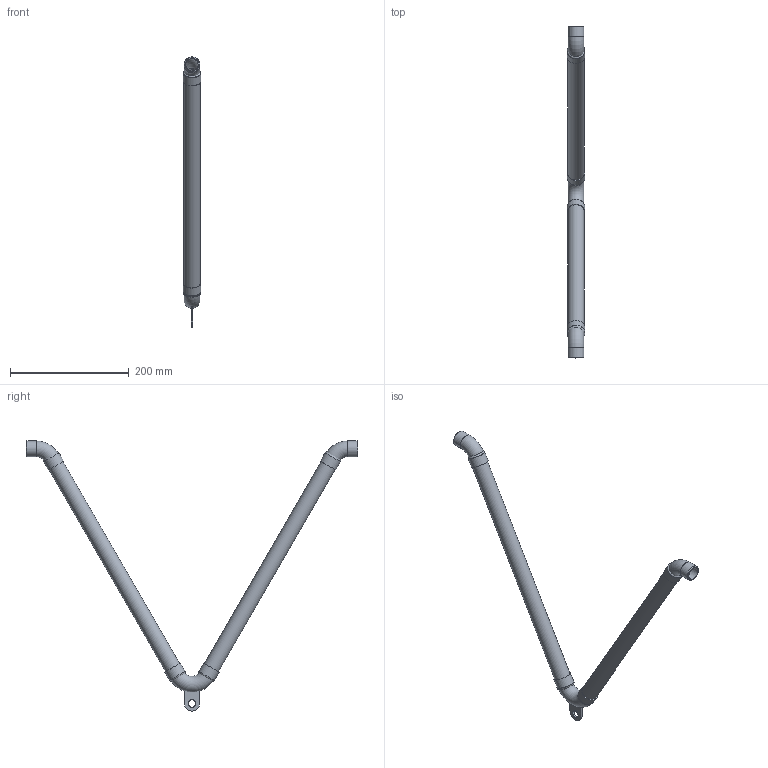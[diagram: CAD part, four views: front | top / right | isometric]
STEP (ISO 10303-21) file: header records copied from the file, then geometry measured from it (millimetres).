
FILE_DESCRIPTION(/* description */ (''),/* implementation_level */ '2;1');
FILE_NAME(/* name */ 'C:\001_Work\Designs\CSAVWN\CSAVWN-0.75x22.stp',/* time_stamp */ '2016-06-02T19:03:58-04:00',/* author */ ('rramoutar'),/* organization */ (''),/* preprocessor_version */ 'ST-DEVELOPER v15.6',/* originating_system */ 'Autodesk Inventor 2015',/* authorisation */ '');
FILE_SCHEMA (('CONFIG_CONTROL_DESIGN'));
Length unit declared in the file: inch
Products named in the file (1): CSAVWN-0.75x22
Bounding box: 29.91 x 558.8 x 454.66 mm (x, y, z)
Volume: 66755.9 mm3; surface area: 186341.1 mm2
Topology: 12 solids, 12 shells, 61 faces, 109 edges, 72 vertices
Faces by surface type: plane 27, cylinder 22, torus 10, cone 2
Full cylindrical faces by diameter (mm): 12.7 x1, 20.93 x2, 23.812 x4, 26.67 x4, 27.28 x2, 27.534 x4, 29.915 x4
Entity records: 1413 total; most frequent: DIRECTION 250, CARTESIAN_POINT 194, ORIENTED_EDGE 136, AXIS2_PLACEMENT_3D 120, EDGE_LOOP 118, STYLED_ITEM 73, EDGE_CURVE 68, VERTEX_POINT 64
